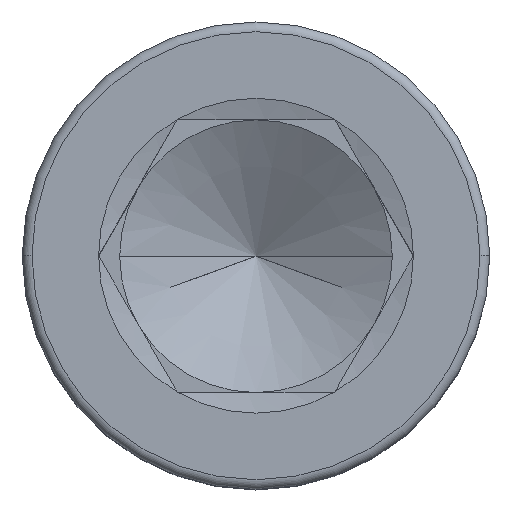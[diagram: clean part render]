
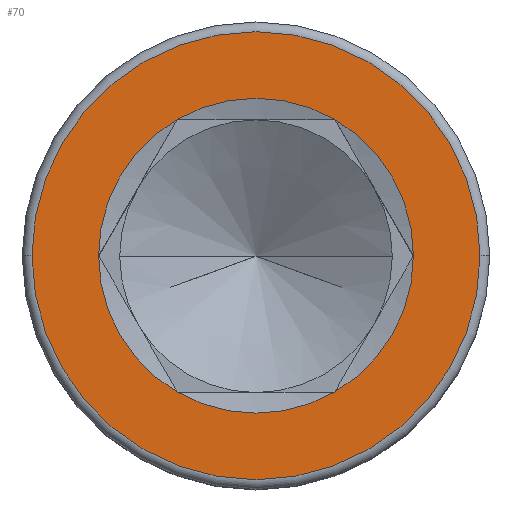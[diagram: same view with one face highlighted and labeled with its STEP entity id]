
A CAD part, top view. The second image highlights one B-rep face of the part: STEP entity #70.
In plain terms, the highlighted planar face has unit normal (0, 0, 1).
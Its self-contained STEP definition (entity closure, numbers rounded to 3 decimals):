
#19 = DIRECTION ( 'NONE',  ( 1., 0., 0. ) ) ;
#66 = CIRCLE ( 'NONE', #1894, 8.083 ) ;
#70 = ADVANCED_FACE ( 'NONE', ( #997, #707 ), #1625, .T. ) ;
#95 = DIRECTION ( 'NONE',  ( 0., 0., 1. ) ) ;
#124 = EDGE_LOOP ( 'NONE', ( #816, #1447 ) ) ;
#157 = EDGE_CURVE ( 'NONE', #1816, #411, #1167, .T. ) ;
#213 = CARTESIAN_POINT ( 'NONE',  ( 0., 0., 16. ) ) ;
#236 = CARTESIAN_POINT ( 'NONE',  ( 0., 0., 16. ) ) ;
#250 = CIRCLE ( 'NONE', #1963, 8.083 ) ;
#256 = EDGE_CURVE ( 'NONE', #1337, #1644, #748, .T. ) ;
#277 = ORIENTED_EDGE ( 'NONE', *, *, #256, .F. ) ;
#338 = AXIS2_PLACEMENT_3D ( 'NONE', #455, #1539, #1375 ) ;
#339 = DIRECTION ( 'NONE',  ( 1., 0., 0. ) ) ;
#340 = CARTESIAN_POINT ( 'NONE',  ( -11.5, 0., 16. ) ) ;
#351 = DIRECTION ( 'NONE',  ( 0., 0., 1. ) ) ;
#353 = CARTESIAN_POINT ( 'NONE',  ( 4.041, 7., 16. ) ) ;
#392 = DIRECTION ( 'NONE',  ( 1., 0., 0. ) ) ;
#411 = VERTEX_POINT ( 'NONE', #1204 ) ;
#450 = CIRCLE ( 'NONE', #692, 8.083 ) ;
#455 = CARTESIAN_POINT ( 'NONE',  ( 0., 0., 16. ) ) ;
#467 = AXIS2_PLACEMENT_3D ( 'NONE', #1889, #964, #634 ) ;
#512 = DIRECTION ( 'NONE',  ( 0., 0., 1. ) ) ;
#523 = VERTEX_POINT ( 'NONE', #1184 ) ;
#538 = DIRECTION ( 'NONE',  ( 0., 0., 1. ) ) ;
#557 = EDGE_CURVE ( 'NONE', #523, #1337, #1547, .T. ) ;
#613 = EDGE_CURVE ( 'NONE', #1644, #1350, #1792, .T. ) ;
#634 = DIRECTION ( 'NONE',  ( 1., 0., 0. ) ) ;
#653 = CARTESIAN_POINT ( 'NONE',  ( 0., 0., 16. ) ) ;
#662 = DIRECTION ( 'NONE',  ( 1., 0., 0. ) ) ;
#692 = AXIS2_PLACEMENT_3D ( 'NONE', #653, #512, #662 ) ;
#707 = FACE_BOUND ( 'NONE', #1592, .T. ) ;
#735 = CARTESIAN_POINT ( 'NONE',  ( 0., 0., 16. ) ) ;
#739 = ORIENTED_EDGE ( 'NONE', *, *, #557, .F. ) ;
#748 = CIRCLE ( 'NONE', #467, 8.083 ) ;
#752 = EDGE_CURVE ( 'NONE', #1856, #523, #66, .T. ) ;
#765 = ORIENTED_EDGE ( 'NONE', *, *, #752, .F. ) ;
#771 = CARTESIAN_POINT ( 'NONE',  ( 0., 0., 16. ) ) ;
#816 = ORIENTED_EDGE ( 'NONE', *, *, #1094, .T. ) ;
#859 = DIRECTION ( 'NONE',  ( 0., 0., 1. ) ) ;
#873 = VERTEX_POINT ( 'NONE', #936 ) ;
#936 = CARTESIAN_POINT ( 'NONE',  ( -4.041, 7., 16. ) ) ;
#964 = DIRECTION ( 'NONE',  ( 0., 0., 1. ) ) ;
#975 = ORIENTED_EDGE ( 'NONE', *, *, #1804, .F. ) ;
#981 = AXIS2_PLACEMENT_3D ( 'NONE', #1219, #1229, #19 ) ;
#997 = FACE_OUTER_BOUND ( 'NONE', #124, .T. ) ;
#1046 = CARTESIAN_POINT ( 'NONE',  ( 8.083, 0., 16. ) ) ;
#1094 = EDGE_CURVE ( 'NONE', #411, #1816, #1117, .T. ) ;
#1117 = CIRCLE ( 'NONE', #1830, 11.5 ) ;
#1161 = CARTESIAN_POINT ( 'NONE',  ( -8.083, 0., 16. ) ) ;
#1167 = CIRCLE ( 'NONE', #1634, 11.5 ) ;
#1184 = CARTESIAN_POINT ( 'NONE',  ( -4.041, -7., 16. ) ) ;
#1204 = CARTESIAN_POINT ( 'NONE',  ( 11.5, 0., 16. ) ) ;
#1219 = CARTESIAN_POINT ( 'NONE',  ( 0., 0., 16. ) ) ;
#1229 = DIRECTION ( 'NONE',  ( 0., 0., 1. ) ) ;
#1337 = VERTEX_POINT ( 'NONE', #1890 ) ;
#1350 = VERTEX_POINT ( 'NONE', #353 ) ;
#1358 = DIRECTION ( 'NONE',  ( 1., 0., 0. ) ) ;
#1375 = DIRECTION ( 'NONE',  ( 1., 0., 0. ) ) ;
#1447 = ORIENTED_EDGE ( 'NONE', *, *, #157, .T. ) ;
#1494 = DIRECTION ( 'NONE',  ( 1., 0., 0. ) ) ;
#1509 = ORIENTED_EDGE ( 'NONE', *, *, #613, .F. ) ;
#1539 = DIRECTION ( 'NONE',  ( 0., 0., 1. ) ) ;
#1547 = CIRCLE ( 'NONE', #338, 8.083 ) ;
#1572 = DIRECTION ( 'NONE',  ( 0., 0., 1. ) ) ;
#1592 = EDGE_LOOP ( 'NONE', ( #1509, #277, #739, #765, #1908, #975 ) ) ;
#1625 = PLANE ( 'NONE',  #1857 ) ;
#1626 = CARTESIAN_POINT ( 'NONE',  ( 0., 0., 16. ) ) ;
#1634 = AXIS2_PLACEMENT_3D ( 'NONE', #1626, #95, #1358 ) ;
#1644 = VERTEX_POINT ( 'NONE', #1046 ) ;
#1792 = CIRCLE ( 'NONE', #981, 8.083 ) ;
#1804 = EDGE_CURVE ( 'NONE', #1350, #873, #250, .T. ) ;
#1816 = VERTEX_POINT ( 'NONE', #340 ) ;
#1830 = AXIS2_PLACEMENT_3D ( 'NONE', #213, #1572, #339 ) ;
#1856 = VERTEX_POINT ( 'NONE', #1161 ) ;
#1857 = AXIS2_PLACEMENT_3D ( 'NONE', #236, #538, #392 ) ;
#1876 = EDGE_CURVE ( 'NONE', #873, #1856, #450, .T. ) ;
#1878 = DIRECTION ( 'NONE',  ( 1., 0., 0. ) ) ;
#1889 = CARTESIAN_POINT ( 'NONE',  ( 0., 0., 16. ) ) ;
#1890 = CARTESIAN_POINT ( 'NONE',  ( 4.041, -7., 16. ) ) ;
#1894 = AXIS2_PLACEMENT_3D ( 'NONE', #735, #859, #1494 ) ;
#1908 = ORIENTED_EDGE ( 'NONE', *, *, #1876, .F. ) ;
#1963 = AXIS2_PLACEMENT_3D ( 'NONE', #771, #351, #1878 ) ;
